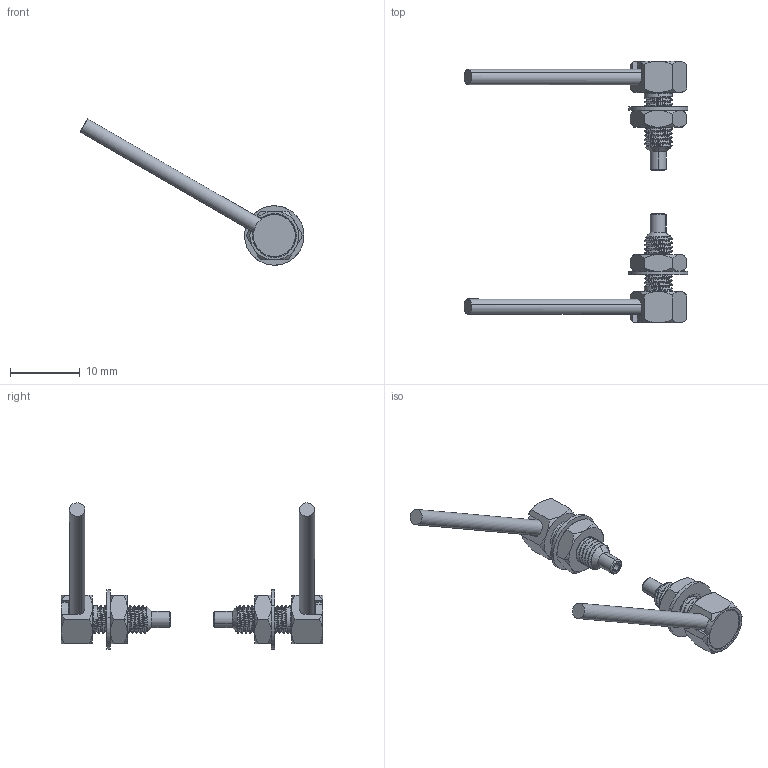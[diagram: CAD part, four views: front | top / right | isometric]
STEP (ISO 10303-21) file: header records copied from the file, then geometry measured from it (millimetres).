
FILE_DESCRIPTION (( 'STEP AP214' ), '1' );
FILE_NAME ('TM-R41.STEP', '2025-09-26T02:24:43', ( 'Windows User' ), ( 'P R C' ), 'SwSTEP 2.0', 'SolidWorks 2023', '' );
FILE_SCHEMA (( 'AUTOMOTIVE_DESIGN' ));
Length unit declared in the file: millimetre
Products named in the file (6): SD1100921-TM-R41盖板（5.8×1）-A0; SD1100920-TM-R41壳体（M4×0.7×15.7）-A0; 2.2光纤线; 齿锁垫片8.5×5×0.5; TM-R41; 螺母4×0.7×2.4  SW7
Assembly tree (10 placements, depth 2):
  TM-R41
    SD1100920-TM-R41壳体（M4×0.7×15.7）-A0  x2
    2.2光纤线  x2
    SD1100921-TM-R41盖板（5.8×1）-A0  x2
    齿锁垫片8.5×5×0.5  x2
    螺母4×0.7×2.4  SW7  x2
Bounding box: 32.07 x 37.5 x 20.95 mm (x, y, z)
Volume: 789 mm3; surface area: 2004.5 mm2
Topology: 10 solids, 10 shells, 286 faces, 694 edges, 430 vertices
Faces by surface type: cylinder 118, cone 94, plane 58, bspline 12, torus 4
Entity records: 7236 total; most frequent: CARTESIAN_POINT 3984, ORIENTED_EDGE 694, DIRECTION 595, EDGE_CURVE 347, AXIS2_PLACEMENT_3D 245, VERTEX_POINT 215, EDGE_LOOP 150, FACE_OUTER_BOUND 143
